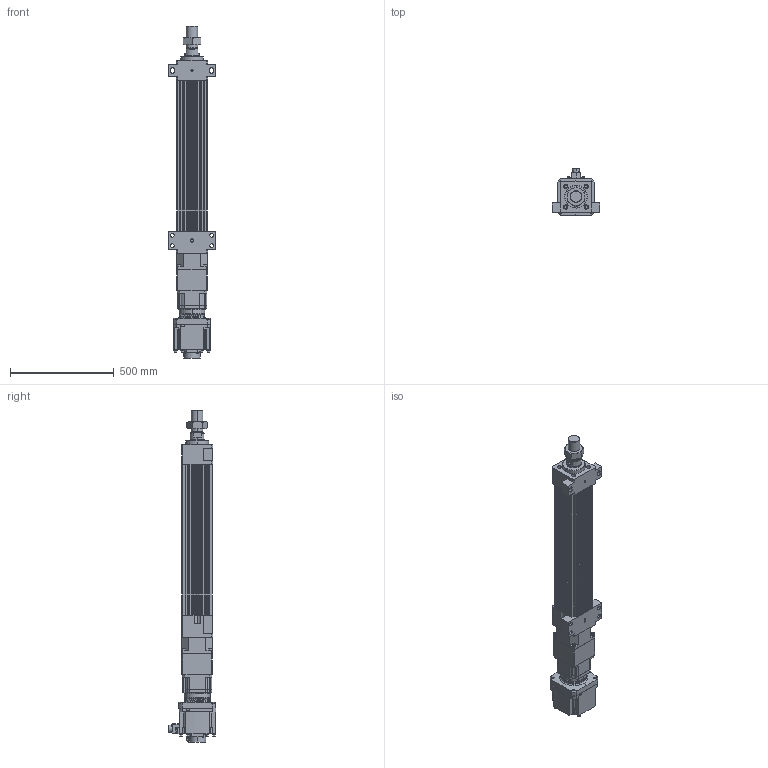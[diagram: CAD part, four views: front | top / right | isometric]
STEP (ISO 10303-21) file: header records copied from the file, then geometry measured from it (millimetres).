
FILE_DESCRIPTION (( 'STEP AP203' ), '1' );
FILE_NAME ('HES150NS(HS)-S450-W035G00-M-FFB.STEP', '2023-02-01T03:08:08', ( 'tms' ), ( '' ), 'SwSTEP 2.0', 'SolidWorks 2013', '' );
FILE_SCHEMA (( 'CONFIG_CONTROL_DESIGN' ));
Length unit declared in the file: millimetre
Products named in the file (9): AB142-003[HG-SR352]; P0403500801; HES150 ROD M ST450; HG-SR352; P1301500001; M56X2.0P; HES150-S450-G142-FFB; HES150NS(HS)-S450-W035G00-M-FFB; AB1421
Assembly tree (8 placements, depth 3):
  HES150NS(HS)-S450-W035G00-M-FFB
    HES150-S450-G142-FFB
    HES150 ROD M ST450
    M56X2.0P
    AB142-003[HG-SR352]
      AB1421
      P1301500001
      P0403500801
    HG-SR352
Bounding box: 230 x 228.85 x 1597.5 mm (x, y, z)
Volume: 18167932.8 mm3; surface area: 1984249 mm2
Topology: 5 solids, 23 shells, 1522 faces, 3951 edges, 2569 vertices
Faces by surface type: cylinder 691, plane 599, cone 150, bspline 76, torus 6
Entity records: 55583 total; most frequent: CARTESIAN_POINT 16843, DIRECTION 8091, ORIENTED_EDGE 7808, EDGE_CURVE 3926, AXIS2_PLACEMENT_3D 3042, VERTEX_POINT 2569, LINE 2007, VECTOR 2007
